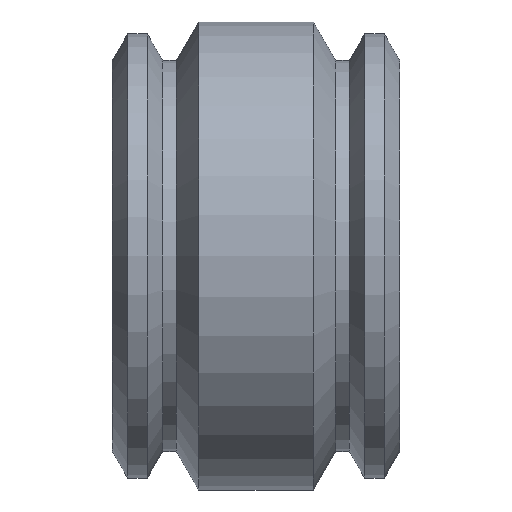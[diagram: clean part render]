
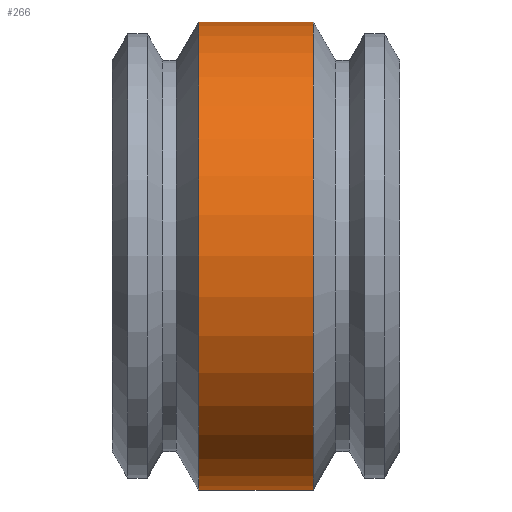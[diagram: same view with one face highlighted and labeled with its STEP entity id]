
A CAD part, front view. The second image highlights one B-rep face of the part: STEP entity #266.
In plain terms, the highlighted cylindrical face has radius 384.429 mm (diameter 768.858 mm), a full revolution.
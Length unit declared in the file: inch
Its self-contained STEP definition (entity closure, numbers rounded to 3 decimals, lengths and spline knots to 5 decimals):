
#21=CYLINDRICAL_SURFACE('',#312,15.135);
#30=FACE_OUTER_BOUND('',#44,.T.);
#44=EDGE_LOOP('',(#205,#206,#207,#208,#209,#210));
#60=LINE('',#475,#72);
#72=VECTOR('',#384,15.135);
#89=CIRCLE('',#310,15.135);
#90=CIRCLE('',#311,15.135);
#91=CIRCLE('',#313,15.135);
#92=CIRCLE('',#314,15.135);
#117=VERTEX_POINT('',#465);
#118=VERTEX_POINT('',#466);
#119=VERTEX_POINT('',#471);
#120=VERTEX_POINT('',#472);
#149=EDGE_CURVE('',#117,#118,#89,.T.);
#150=EDGE_CURVE('',#118,#117,#90,.T.);
#152=EDGE_CURVE('',#119,#120,#91,.T.);
#153=EDGE_CURVE('',#120,#119,#92,.T.);
#154=EDGE_CURVE('',#120,#118,#60,.T.);
#205=ORIENTED_EDGE('',*,*,#152,.F.);
#206=ORIENTED_EDGE('',*,*,#153,.F.);
#207=ORIENTED_EDGE('',*,*,#154,.T.);
#208=ORIENTED_EDGE('',*,*,#150,.T.);
#209=ORIENTED_EDGE('',*,*,#149,.T.);
#210=ORIENTED_EDGE('',*,*,#154,.F.);
#266=ADVANCED_FACE('',(#30),#21,.T.);
#310=AXIS2_PLACEMENT_3D('',#467,#373,#374);
#311=AXIS2_PLACEMENT_3D('',#468,#375,#376);
#312=AXIS2_PLACEMENT_3D('',#470,#378,#379);
#313=AXIS2_PLACEMENT_3D('',#473,#380,#381);
#314=AXIS2_PLACEMENT_3D('',#474,#382,#383);
#373=DIRECTION('center_axis',(-1.,0.,0.));
#374=DIRECTION('ref_axis',(0.,0.,1.));
#375=DIRECTION('center_axis',(-1.,0.,0.));
#376=DIRECTION('ref_axis',(0.,0.,1.));
#378=DIRECTION('center_axis',(-1.,0.,0.));
#379=DIRECTION('ref_axis',(0.,-1.,0.));
#380=DIRECTION('center_axis',(-1.,0.,0.));
#381=DIRECTION('ref_axis',(0.,0.,1.));
#382=DIRECTION('center_axis',(-1.,0.,0.));
#383=DIRECTION('ref_axis',(0.,0.,1.));
#384=DIRECTION('',(1.,0.,0.));
#465=CARTESIAN_POINT('',(3.716,-15.135,0.));
#466=CARTESIAN_POINT('',(3.716,15.135,0.));
#467=CARTESIAN_POINT('Origin',(3.716,0.,0.));
#468=CARTESIAN_POINT('Origin',(3.716,0.,0.));
#470=CARTESIAN_POINT('Origin',(0.,0.,0.));
#471=CARTESIAN_POINT('',(-3.716,-15.135,0.));
#472=CARTESIAN_POINT('',(-3.716,15.135,0.));
#473=CARTESIAN_POINT('Origin',(-3.716,0.,0.));
#474=CARTESIAN_POINT('Origin',(-3.716,0.,0.));
#475=CARTESIAN_POINT('',(0.,15.135,0.));
